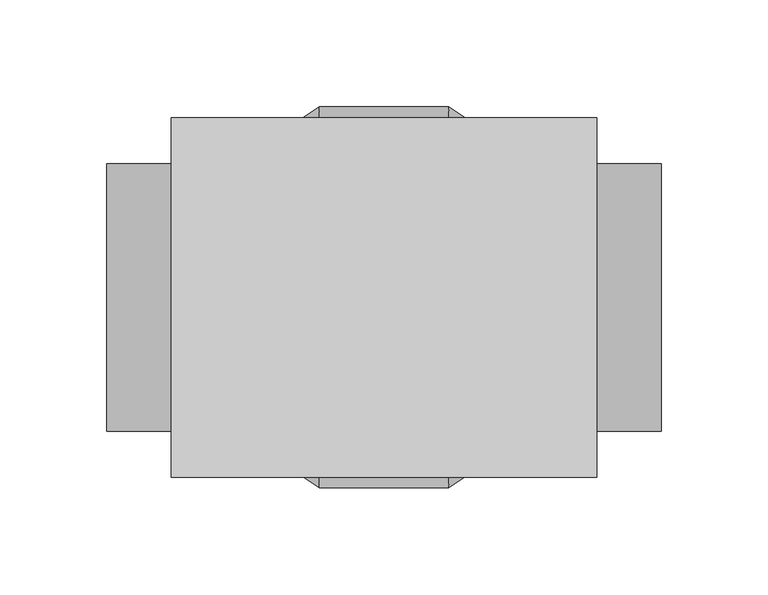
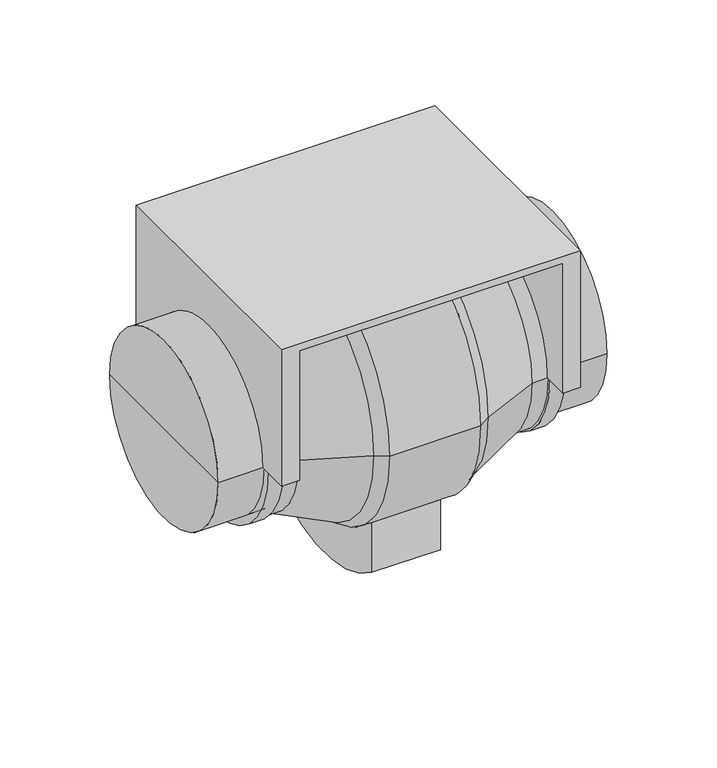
"""IFC4 building model written with IfcOpenShell, lengths in millimetres: unitary equipment geometry, VE-Wentylator-ParaForma-Harmann-ML-Nawiewny : 125/350."""

from ifc_helpers import new_model, si_unit, point, frame, origin, origin_2d, place, context, project, spatial, polyline, circle_curve, trimmed, segment, composite_curve, outline, extrude, source, transform, mapped, element, save
from ifc_brep_helpers import plane_surface, cylinder_surface, revolved_surface, advanced_brep


def unitary_equipment_cefa6bfa(model_context):
    return source(origin(), model_context, "Body", "SolidModel", [
        extrude(outline(composite_curve([segment(trimmed(circle_curve(origin_2d(), 62.5), [point((-62.5, 0.0))], [point((62.5, 0.0))], True, "CARTESIAN"), True, "CONTINUOUS"), segment(polyline([(62.5, 0.0), (67.5, 0.0)]), True, "CONTINUOUS"), segment(trimmed(circle_curve(origin_2d(), 67.5), [point((67.5, 0.0))], [point((-67.5, 0.0))], False, "CARTESIAN"), True, "CONTINUOUS"), segment(polyline([(-67.5, 0.0), (-62.5, 0.0)]), True, "CONTINUOUS")], self_intersect=False)), frame((88.6, 0.0, 0.0), z_axis=(1.0, 0.0, 0.0), x_axis=(0.0, 1.0, 0.0)), (0.0, 0.0, 1.0), 10.0),
        extrude(outline(composite_curve([segment(trimmed(circle_curve(origin_2d(), 62.5), [point((-62.5, 0.0))], [point((62.5, 0.0))], True, "CARTESIAN"), True, "CONTINUOUS"), segment(polyline([(62.5, 0.0), (67.5, 0.0)]), True, "CONTINUOUS"), segment(trimmed(circle_curve(origin_2d(), 67.5), [point((67.5, 0.0))], [point((-67.5, 0.0))], False, "CARTESIAN"), True, "CONTINUOUS"), segment(polyline([(-67.5, 0.0), (-62.5, 0.0)]), True, "CONTINUOUS")], self_intersect=False)), frame((-98.6, 0.0, 0.0), z_axis=(1.0, 0.0, 0.0), x_axis=(0.0, 1.0, 0.0)), (0.0, 0.0, 1.0), 10.0),
        advanced_brep(
        [(-99.5, 84.0, 0.0), (-99.5, 62.5, 0.0), (-99.5, -62.5, 0.0), (-99.5, -84.0, 0.0), (-99.5, -84.0, 96.0), (-99.5, 84.0, 96.0), (-87.8, -84.0, 0.0), (-87.8, -62.5, 0.0), (-87.8, 62.5, 0.0), (-87.8, 84.0, 0.0), (-87.8, 84.0, 91.3), (-87.8, -84.0, 91.3), (87.8, -84.0, 91.3), (87.8, 84.0, 91.3), (87.8, -84.0, 0.0), (99.5, -84.0, 0.0), (99.5, -84.0, 96.0), (99.5, 84.0, 96.0), (99.5, 84.0, 0.0), (87.8, 84.0, 0.0), (87.8, 62.5, 0.0), (87.8, -62.5, 0.0), (99.5, -62.5, 0.0), (99.5, 62.5, 0.0)],
        [
            (0, 1),
            (1, 2, circle_curve(frame((-99.5, 0.0, 0.0), z_axis=(1.0, 0.0, 0.0), x_axis=(0.0, 1.0, 0.0)), 62.5)),
            (2, 3),
            (3, 4),
            (4, 5),
            (5, 0),
            (6, 7),
            (7, 8, circle_curve(frame((-87.8, 0.0, 0.0), z_axis=(-1.0, 0.0, 0.0), x_axis=(0.0, 1.0, 0.0)), 62.5)),
            (8, 9),
            (9, 10),
            (10, 11),
            (11, 6),
            (12, 11),
            (10, 13),
            (13, 12),
            (3, 6),
            (12, 14),
            (14, 15),
            (15, 16),
            (16, 4),
            (16, 17),
            (17, 5),
            (17, 18),
            (18, 19),
            (19, 13),
            (9, 0),
            (8, 1),
            (7, 2),
            (19, 20),
            (20, 21, circle_curve(frame((87.8, 0.0, 0.0), z_axis=(1.0, 0.0, 0.0), x_axis=(0.0, 1.0, 0.0)), 62.5)),
            (21, 14),
            (15, 22),
            (22, 23, circle_curve(frame((99.5, 0.0, 0.0), z_axis=(-1.0, 0.0, 0.0), x_axis=(0.0, 1.0, 0.0)), 62.5)),
            (23, 18),
            (23, 20),
            (22, 21),
        ],
        [
            plane_surface(frame((-99.5, 0.0, 0.0), z_axis=(-1.0, 0.0, 0.0), x_axis=(0.0, 0.0, 1.0))),
            plane_surface(frame((-87.8, 0.0, 0.0), z_axis=(1.0, 0.0, 0.0), x_axis=(0.0, 0.0, 1.0))),
            plane_surface(frame((-87.8, 84.0, 91.3), z_axis=(0.0, 0.0, -1.0), x_axis=(1.0, 0.0, 0.0))),
            plane_surface(frame((-99.5, -84.0, 0.0), z_axis=(0.0, -1.0, 0.0), x_axis=(1.0, 0.0, 0.0))),
            plane_surface(frame((-99.5, -84.0, 96.0), z_axis=(0.0, 0.0, 1.0), x_axis=(1.0, 0.0, 0.0))),
            plane_surface(frame((-99.5, 84.0, 96.0), z_axis=(0.0, 1.0, 0.0), x_axis=(1.0, 0.0, 0.0))),
            plane_surface(frame((-99.5, 84.0, 0.0), z_axis=(0.0, 0.0, -1.0), x_axis=(1.0, 0.0, 0.0))),
            revolved_surface(polyline([(-87.8, 62.5, 0.0), (-99.5, 62.5, 0.0)]), (-99.5, 0.0, 0.0), (1.0, 0.0, 0.0)),
            plane_surface(frame((-99.5, -62.5, 0.0), z_axis=(0.0, 0.0, -1.0), x_axis=(1.0, 0.0, 0.0))),
            plane_surface(frame((87.8, 0.0, 0.0), z_axis=(-1.0, 0.0, 0.0), x_axis=(0.0, 0.0, 1.0))),
            plane_surface(frame((99.5, 0.0, 0.0), z_axis=(1.0, 0.0, 0.0), x_axis=(0.0, 0.0, 1.0))),
            plane_surface(frame((87.8, 84.0, 0.0), z_axis=(0.0, 0.0, -1.0), x_axis=(1.0, 0.0, 0.0))),
            revolved_surface(polyline([(99.5, 62.5, 0.0), (87.8, 62.5, 0.0)]), (87.8, 0.0, 0.0), (1.0, 0.0, 0.0)),
            plane_surface(frame((87.8, -62.5, 0.0), z_axis=(0.0, 0.0, -1.0), x_axis=(1.0, 0.0, 0.0))),
        ],
        [
            (0, [[1, 2, 3, 4, 5, 6]]),
            (1, [[7, 8, 9, 10, 11, 12]]),
            (2, [[13, -11, 14, 15]]),
            (3, [[-4, 16, -12, -13, 17, 18, 19, 20]]),
            (4, [[-5, -20, 21, 22]]),
            (5, [[-6, -22, 23, 24, 25, -14, -10, 26]]),
            (6, [[-1, -26, -9, 27]]),
            (7, [[-2, -27, -8, 28]]),
            (8, [[-3, -28, -7, -16]]),
            (9, [[29, 30, 31, -17, -15, -25]]),
            (10, [[-23, -21, -19, 32, 33, 34]]),
            (11, [[-29, -24, -34, 35]]),
            (12, [[-30, -35, -33, 36]]),
            (13, [[-31, -36, -32, -18]]),
        ],
    ),
        advanced_brep(
        [(-22.9, 55.0, -105.0), (-22.9, -55.0, -105.0), (-22.9, -55.0, -69.9714227), (-22.9, 55.0, -69.9714227), (22.9, -55.0, -105.0), (22.9, 55.0, -105.0), (22.9, 55.0, -69.9714227), (22.9, -55.0, -69.9714227), (129.5, -62.5, 0.0), (129.5, 62.5, 0.0), (129.5, 0.0, 0.0), (87.8, -62.5, 0.0), (87.8, 62.5, 0.0), (30.3, -89.0, 0.0), (30.3, 89.0, 0.0), (37.9, 83.9, 0.0), (37.9, -83.9, 0.0), (-30.3, -89.0, 0.0), (-30.3, 89.0, 0.0), (-37.9, -83.9, 0.0), (-37.9, 83.9, 0.0), (-129.5, -62.5, 0.0), (-129.5, 62.5, 0.0), (-87.8, 62.5, 0.0), (-87.8, -62.5, 0.0), (-129.5, 0.0, 0.0), (87.8, -66.4, 0.0), (87.8, 66.4, 0.0), (77.5, -66.4, 0.0), (77.5, 66.4, 0.0), (-77.5, -66.4, 0.0), (-77.5, 66.4, 0.0), (-87.8, -66.4, 0.0), (-87.8, 66.4, 0.0)],
        [
            (0, 1, circle_curve(frame((-22.9, 0.0, -35.0285773), z_axis=(-1.0, 0.0, 0.0), x_axis=(0.0, 0.999999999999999, 0.0)), 89.0)),
            (1, 2),
            (2, 3, circle_curve(frame((-22.9, 0.0, 0.0), z_axis=(1.0, 0.0, 0.0), x_axis=(0.0, 0.999999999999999, 0.0)), 89.0)),
            (3, 0),
            (4, 5, circle_curve(frame((22.9, 0.0, -35.0285773), z_axis=(1.0, 0.0, 0.0), x_axis=(0.0, 0.999999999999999, 0.0)), 89.0)),
            (5, 6),
            (6, 7, circle_curve(frame((22.9, 0.0, 0.0), z_axis=(-1.0, 0.0, 0.0), x_axis=(0.0, 0.999999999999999, 0.0)), 89.0)),
            (7, 4),
            (0, 5),
            (4, 1),
            (7, 2),
            (3, 6),
            (8, 9, circle_curve(frame((129.5, 0.0, 0.0), z_axis=(1.0, 0.0, 0.0), x_axis=(0.0, 0.999999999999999, 0.0)), 62.5)),
            (9, 10),
            (10, 8),
            (9, 8, circle_curve(frame((129.5, 0.0, 0.0), z_axis=(1.0, 0.0, 0.0), x_axis=(0.0, 0.999999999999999, 0.0)), 62.5)),
            (8, 11),
            (11, 12, circle_curve(frame((87.8, 0.0, 0.0), z_axis=(1.0, 0.0, 0.0), x_axis=(0.0, 0.999999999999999, 0.0)), 62.5)),
            (12, 9),
            (12, 11, circle_curve(frame((87.8, 0.0, 0.0), z_axis=(1.0, 0.0, 0.0), x_axis=(0.0, 0.999999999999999, 0.0)), 62.5)),
            (13, 14, circle_curve(frame((30.3, 0.0, 0.0), z_axis=(1.0, 0.0, 0.0), x_axis=(0.0, 0.999999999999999, 0.0)), 89.0)),
            (14, 15),
            (15, 16, circle_curve(frame((37.9, 0.0, 0.0), z_axis=(-1.0, 0.0, 0.0), x_axis=(0.0, 0.999999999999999, 0.0)), 83.9)),
            (16, 13),
            (14, 13, circle_curve(frame((30.3, 0.0, 0.0), z_axis=(1.0, 0.0, 0.0), x_axis=(0.0, 0.999999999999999, 0.0)), 89.0)),
            (16, 15, circle_curve(frame((37.9, 0.0, 0.0), z_axis=(-1.0, 0.0, 0.0), x_axis=(0.0, 0.999999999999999, 0.0)), 83.9)),
            (13, 17),
            (17, 18, circle_curve(frame((-30.3, 0.0, 0.0), z_axis=(1.0, 0.0, 0.0), x_axis=(0.0, 0.999999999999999, 0.0)), 89.0)),
            (18, 14),
            (18, 17, circle_curve(frame((-30.3, 0.0, 0.0), z_axis=(1.0, 0.0, 0.0), x_axis=(0.0, 0.999999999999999, 0.0)), 89.0)),
            (17, 19),
            (19, 20, circle_curve(frame((-37.9, 0.0, 0.0), z_axis=(1.0, 0.0, 0.0), x_axis=(0.0, 0.999999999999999, 0.0)), 83.9)),
            (20, 18),
            (20, 19, circle_curve(frame((-37.9, 0.0, 0.0), z_axis=(1.0, 0.0, 0.0), x_axis=(0.0, 0.999999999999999, 0.0)), 83.9)),
            (21, 22, circle_curve(frame((-129.5, 0.0, 0.0), z_axis=(1.0, 0.0, 0.0), x_axis=(0.0, 0.999999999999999, 0.0)), 62.5)),
            (22, 23),
            (23, 24, circle_curve(frame((-87.8, 0.0, 0.0), z_axis=(-1.0, 0.0, 0.0), x_axis=(0.0, 0.999999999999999, 0.0)), 62.5)),
            (24, 21),
            (22, 21, circle_curve(frame((-129.5, 0.0, 0.0), z_axis=(1.0, 0.0, 0.0), x_axis=(0.0, 0.999999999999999, 0.0)), 62.5)),
            (24, 23, circle_curve(frame((-87.8, 0.0, 0.0), z_axis=(-1.0, 0.0, 0.0), x_axis=(0.0, 0.999999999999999, 0.0)), 62.5)),
            (21, 25),
            (25, 22),
            (11, 26),
            (26, 27, circle_curve(frame((87.8, 0.0, 0.0), z_axis=(1.0, 0.0, 0.0), x_axis=(0.0, 0.999999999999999, 0.0)), 66.4)),
            (27, 12),
            (27, 26, circle_curve(frame((87.8, 0.0, 0.0), z_axis=(1.0, 0.0, 0.0), x_axis=(0.0, 0.999999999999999, 0.0)), 66.4)),
            (26, 28),
            (28, 29, circle_curve(frame((77.5, 0.0, 0.0), z_axis=(1.0, 0.0, 0.0), x_axis=(0.0, 0.999999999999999, 0.0)), 66.4)),
            (29, 27),
            (29, 28, circle_curve(frame((77.5, 0.0, 0.0), z_axis=(1.0, 0.0, 0.0), x_axis=(0.0, 0.999999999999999, 0.0)), 66.4)),
            (15, 29),
            (28, 16),
            (19, 30),
            (30, 31, circle_curve(frame((-77.5, 0.0, 0.0), z_axis=(1.0, 0.0, 0.0), x_axis=(0.0, 0.999999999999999, 0.0)), 66.4)),
            (31, 20),
            (31, 30, circle_curve(frame((-77.5, 0.0, 0.0), z_axis=(1.0, 0.0, 0.0), x_axis=(0.0, 0.999999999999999, 0.0)), 66.4)),
            (30, 32),
            (32, 33, circle_curve(frame((-87.8, 0.0, 0.0), z_axis=(1.0, 0.0, 0.0), x_axis=(0.0, 0.999999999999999, 0.0)), 66.4)),
            (33, 31),
            (33, 32, circle_curve(frame((-87.8, 0.0, 0.0), z_axis=(1.0, 0.0, 0.0), x_axis=(0.0, 0.999999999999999, 0.0)), 66.4)),
            (23, 33),
            (32, 24),
        ],
        [
            plane_surface(frame((-22.9, 0.0, 0.0), z_axis=(-1.0, 0.0, 0.0), x_axis=(0.0, 0.0, 1.0))),
            plane_surface(frame((22.9, 0.0, 0.0), z_axis=(1.0, 0.0, 0.0), x_axis=(0.0, 0.0, 1.0))),
            cylinder_surface(frame((-22.9, 0.0, -35.0285773), z_axis=(-0.9999999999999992, 0.0, 0.0), x_axis=(0.0, 0.999999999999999, 0.0)), 89.0),
            plane_surface(frame((-22.9, -55.0, -105.0), z_axis=(0.0, -1.0, 0.0), x_axis=(1.0, 0.0, 0.0))),
            plane_surface(frame((-22.9, 55.0, 0.0), z_axis=(0.0, 1.0, 0.0), x_axis=(1.0, 0.0, 0.0))),
            plane_surface(frame((129.5, 0.0, 0.0), z_axis=(1.0, 0.0, 0.0), x_axis=(0.0, 1.0, 0.0))),
            cylinder_surface(frame((-129.5, 0.0, 0.0), z_axis=(-0.9999999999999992, 0.0, 0.0), x_axis=(0.0, 0.999999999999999, 0.0)), 62.5),
            revolved_surface(polyline([(37.9, 83.9, 0.0), (30.3, 89.0, 0.0)]), (-129.5, 0.0, 0.0), (-0.9999999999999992, 0.0, 0.0)),
            cylinder_surface(frame((-129.5, 0.0, 0.0), z_axis=(-0.9999999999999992, 0.0, 0.0), x_axis=(0.0, 0.999999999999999, 0.0)), 89.0),
            revolved_surface(polyline([(-30.3, 89.0, 0.0), (-37.9, 83.9, 0.0)]), (-129.5, 0.0, 0.0), (-0.9999999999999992, 0.0, 0.0)),
            plane_surface(frame((-129.5, 0.0, 0.0), z_axis=(-1.0, 0.0, 0.0), x_axis=(0.0, 1.0, 0.0))),
            plane_surface(frame((87.8, 0.0, 0.0), z_axis=(1.0, 0.0, 0.0), x_axis=(0.0, 1.0, 0.0))),
            cylinder_surface(frame((-129.5, 0.0, 0.0), z_axis=(-0.9999999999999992, 0.0, 0.0), x_axis=(0.0, 0.999999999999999, 0.0)), 66.4),
            revolved_surface(polyline([(77.5, 66.4, 0.0), (37.9, 83.9, 0.0)]), (-129.5, 0.0, 0.0), (-0.9999999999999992, 0.0, 0.0)),
            revolved_surface(polyline([(-37.9, 83.9, 0.0), (-77.5, 66.4, 0.0)]), (-129.5, 0.0, 0.0), (-0.9999999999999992, 0.0, 0.0)),
            plane_surface(frame((-87.8, 0.0, 0.0), z_axis=(-1.0, 0.0, 0.0), x_axis=(0.0, 1.0, 0.0))),
        ],
        [
            (0, [[1, 2, 3, 4]]),
            (1, [[5, 6, 7, 8]]),
            (2, [[-1, 9, -5, 10]]),
            (3, [[-10, -8, 11, -2]]),
            (4, [[-9, -4, 12, -6]]),
            (5, [[13, 14, 15]]),
            (5, [[-14, 16, -15]]),
            (6, [[-13, 17, 18, 19]]),
            (6, [[-16, -19, 20, -17]]),
            (7, [[21, 22, 23, 24]]),
            (7, [[-22, 25, -24, 26]]),
            (8, [[-21, 27, 28, 29], [-3, -11, -7, -12]]),
            (8, [[-25, -29, 30, -27]]),
            (9, [[-28, 31, 32, 33]]),
            (9, [[-30, -33, 34, -31]]),
            (6, [[35, 36, 37, 38]]),
            (6, [[-36, 39, -38, 40]]),
            (10, [[-35, 41, 42]]),
            (10, [[-39, -42, -41]]),
            (11, [[-18, 43, 44, 45]]),
            (11, [[-20, -45, 46, -43]]),
            (12, [[-44, 47, 48, 49]]),
            (12, [[-46, -49, 50, -47]]),
            (13, [[-23, 51, -48, 52]]),
            (13, [[-26, -52, -50, -51]]),
            (14, [[-32, 53, 54, 55]]),
            (14, [[-34, -55, 56, -53]]),
            (12, [[-54, 57, 58, 59]]),
            (12, [[-56, -59, 60, -57]]),
            (15, [[-37, 61, -58, 62]]),
            (15, [[-40, -62, -60, -61]]),
        ],
    ),
    ])


if __name__ == "__main__":
    model = new_model("IFC4")
    model_context = context("Model", 3, world=origin())
    ifc_project = project(units=[si_unit("LENGTHUNIT", "METRE", prefix="MILLI")], contexts=[model_context])
    site = spatial("IfcSite", under=ifc_project)
    building = spatial("IfcBuilding", under=site)
    placement = place(None, origin())
    unitary_equipment_shape = unitary_equipment_cefa6bfa(model_context)
    element("IfcUnitaryEquipment", 1, ObjectType="VE-Wentylator-ParaForma-Harmann-ML-Nawiewny : 125/350", at=placement, inside=building, context=model_context, shape_type="MappedRepresentation", body=[
        mapped(unitary_equipment_shape, transform((0.0, 0.0, 0.0), x_axis=(1.0, 0.0, 0.0), y_axis=(0.0, 1.0, 0.0), z_axis=(0.0, 0.0, 1.0))),
    ])
    save(model, "model.ifc")
